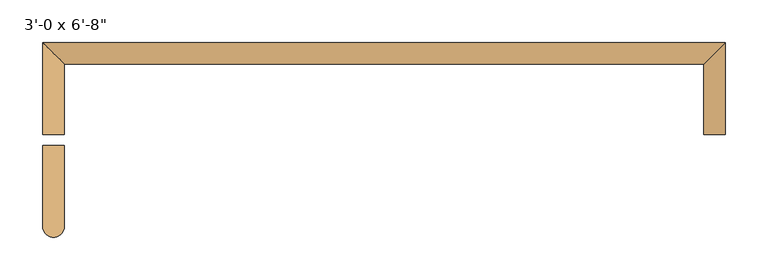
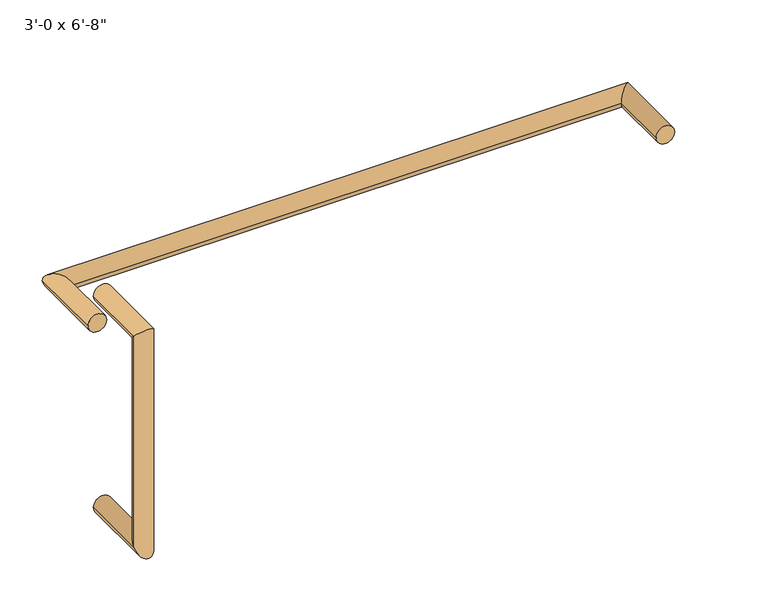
"""IFC4 building model written with IfcOpenShell, lengths in millimetres: door geometry."""

from ifc_helpers import new_model, si_unit, frame, origin, place, context, project, spatial, circle_curve, ellipse_curve, source, transform, mapped, element, save
from ifc_brep_helpers import plane_surface, cylinder_surface, advanced_brep


def door_b55f2143(model_context):
    return source(origin(), model_context, "Body", "AdvancedBrep", [
        advanced_brep(
        [(-400.05, -19.05, 1117.6), (-374.65, -19.05, 1117.6), (-374.65, 63.5, 1117.6), (-400.05, 88.9, 1117.6), (374.65, 63.5, 1117.6), (400.05, 88.9, 1117.6), (400.05, -19.05, 1117.6), (374.65, -19.05, 1117.6)],
        [
            (0, 1, circle_curve(frame((-387.35, -19.05, 1117.6), z_axis=(0.0, -1.0, 0.0), x_axis=(1.0, 0.0, 0.0)), 12.7)),
            (1, 0, circle_curve(frame((-387.35, -19.05, 1117.6), z_axis=(0.0, -1.0, 0.0), x_axis=(1.0, 0.0, 0.0)), 12.7)),
            (1, 2),
            (2, 3, ellipse_curve(frame((-387.35, 76.2, 1117.6), z_axis=(-0.707106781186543, -0.7071067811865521, 0.0), x_axis=(0.7071067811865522, -0.7071067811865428, 0.0)), 17.9605122, 12.7)),
            (3, 0),
            (3, 2, ellipse_curve(frame((-387.35, 76.2, 1117.6), z_axis=(-0.707106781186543, -0.7071067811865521, 0.0), x_axis=(0.7071067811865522, -0.7071067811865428, 0.0)), 17.9605122, 12.7)),
            (2, 4),
            (4, 5, ellipse_curve(frame((387.35, 76.2, 1117.6), z_axis=(-0.7071067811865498, 0.7071067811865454, 0.0), x_axis=(-0.7071067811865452, -0.7071067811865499, 0.0)), 17.9605122, 12.7)),
            (5, 3),
            (5, 4, ellipse_curve(frame((387.35, 76.2, 1117.6), z_axis=(-0.7071067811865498, 0.7071067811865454, 0.0), x_axis=(-0.7071067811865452, -0.7071067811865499, 0.0)), 17.9605122, 12.7)),
            (6, 7, circle_curve(frame((387.35, -19.05, 1117.6), z_axis=(0.0, -1.0, 0.0), x_axis=(-1.0, 0.0, 0.0)), 12.7)),
            (7, 6, circle_curve(frame((387.35, -19.05, 1117.6), z_axis=(0.0, -1.0, 0.0), x_axis=(-1.0, 0.0, 0.0)), 12.7)),
            (4, 7),
            (6, 5),
        ],
        [
            plane_surface(frame((-387.35, -19.05, 1117.6), z_axis=(0.0, -1.0, 0.0), x_axis=(0.0, 0.0, 1.0))),
            cylinder_surface(frame((-387.35, -19.05, 1117.6), z_axis=(0.0, -1.0, 0.0), x_axis=(1.0, 0.0, 0.0)), 12.7),
            cylinder_surface(frame((-387.35, 76.2, 1117.6), z_axis=(-1.0, 0.0, 0.0), x_axis=(0.0, -1.0, 0.0)), 12.7),
            plane_surface(frame((387.35, -19.05, 1117.6), z_axis=(0.0, -1.0, 0.0), x_axis=(0.0, 0.0, 1.0))),
            cylinder_surface(frame((387.35, 76.2, 1117.6), z_axis=(0.0, 1.0, 0.0), x_axis=(-1.0, 0.0, 0.0)), 12.7),
        ],
        [
            (0, [[1, 2]]),
            (1, [[3, 4, 5, -2]]),
            (1, [[-5, 6, -3, -1]]),
            (2, [[7, 8, 9, -4]]),
            (2, [[-9, 10, -7, -6]]),
            (3, [[11, 12]]),
            (4, [[13, -11, 14, -8]]),
            (4, [[-14, -12, -13, -10]]),
        ],
    ),
        advanced_brep(
        [(-400.05, -31.75, 863.6), (-374.65, -31.75, 863.6), (-374.65, -127.0, 863.6), (-400.05, -127.0, 863.6), (-374.65, -127.0, 1168.4), (-400.05, -127.0, 1168.4), (-400.05, -31.75, 1168.4), (-374.65, -31.75, 1168.4)],
        [
            (0, 1, circle_curve(frame((-387.35, -31.75, 863.6), z_axis=(0.0, 1.0, 0.0), x_axis=(1.0, 0.0, 0.0)), 12.7)),
            (1, 0, circle_curve(frame((-387.35, -31.75, 863.6), z_axis=(0.0, 1.0, 0.0), x_axis=(1.0, 0.0, 0.0)), 12.7)),
            (1, 2),
            (2, 3, ellipse_curve(frame((-387.35, -127.0, 863.6), z_axis=(0.0, 0.7071067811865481, -0.7071067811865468), x_axis=(0.0, 0.7071067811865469, 0.707106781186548)), 17.9605122, 12.7)),
            (3, 0),
            (3, 2, ellipse_curve(frame((-387.35, -127.0, 863.6), z_axis=(0.0, 0.7071067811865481, -0.7071067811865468), x_axis=(0.0, 0.7071067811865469, 0.707106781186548)), 17.9605122, 12.7)),
            (2, 4),
            (4, 5, ellipse_curve(frame((-387.35, -127.0, 1168.4), z_axis=(0.0, -0.7071067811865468, -0.7071067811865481), x_axis=(0.0, 0.707106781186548, -0.7071067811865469)), 17.9605122, 12.7)),
            (5, 3),
            (5, 4, ellipse_curve(frame((-387.35, -127.0, 1168.4), z_axis=(0.0, -0.7071067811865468, -0.7071067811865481), x_axis=(0.0, 0.707106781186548, -0.7071067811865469)), 17.9605122, 12.7)),
            (6, 7, circle_curve(frame((-387.35, -31.75, 1168.4), z_axis=(0.0, 1.0, 0.0), x_axis=(1.0, 0.0, 0.0)), 12.7)),
            (7, 6, circle_curve(frame((-387.35, -31.75, 1168.4), z_axis=(0.0, 1.0, 0.0), x_axis=(1.0, 0.0, 0.0)), 12.7)),
            (4, 7),
            (6, 5),
        ],
        [
            plane_surface(frame((-387.35, -31.75, 863.6), z_axis=(0.0, 1.0, 0.0), x_axis=(0.0, 0.0, -1.0))),
            cylinder_surface(frame((-387.35, -31.75, 863.6), z_axis=(0.0, 1.0, 0.0), x_axis=(1.0, 0.0, 0.0)), 12.7),
            cylinder_surface(frame((-387.35, -127.0, 863.6), z_axis=(0.0, 0.0, -1.0), x_axis=(1.0, 0.0, 0.0)), 12.7),
            plane_surface(frame((-387.35, -31.75, 1168.4), z_axis=(0.0, 1.0, 0.0), x_axis=(0.0, 0.0, 1.0))),
            cylinder_surface(frame((-387.35, -127.0, 1168.4), z_axis=(0.0, -1.0, 0.0), x_axis=(1.0, 0.0, 0.0)), 12.7),
        ],
        [
            (0, [[1, 2]]),
            (1, [[3, 4, 5, -2]]),
            (1, [[-5, 6, -3, -1]]),
            (2, [[7, 8, 9, -4]]),
            (2, [[-9, 10, -7, -6]]),
            (3, [[11, 12]]),
            (4, [[13, -11, 14, -8]]),
            (4, [[-14, -12, -13, -10]]),
        ],
    ),
    ])


if __name__ == "__main__":
    model = new_model("IFC4")
    model_context = context("Model", 3, world=origin())
    ifc_project = project(units=[si_unit("LENGTHUNIT", "METRE", prefix="MILLI")], contexts=[model_context])
    site = spatial("IfcSite", under=ifc_project)
    building = spatial("IfcBuilding", under=site)
    placement = place(None, origin())
    door_shape = door_b55f2143(model_context)
    element("IfcDoor", 1, ObjectType="Planitar - Single Door : 3'-0 x 6'-8\"", at=placement, inside=building, context=model_context, shape_type="MappedRepresentation", body=[
        mapped(door_shape, transform((0.0, 0.0, 0.0), x_axis=(1.0, 0.0, 0.0), y_axis=(0.0, 1.0, 0.0), z_axis=(0.0, 0.0, 1.0))),
    ])
    save(model, "model.ifc")
